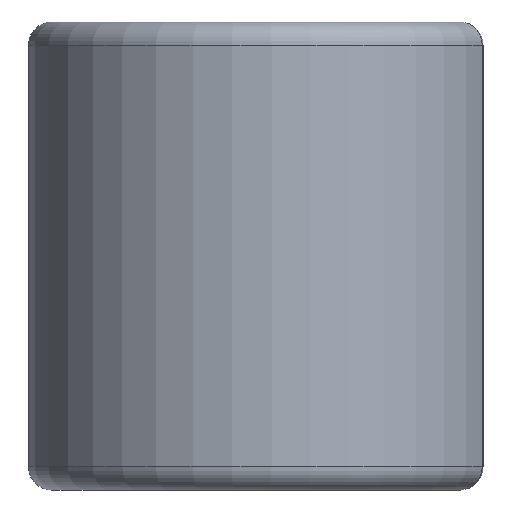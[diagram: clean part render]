
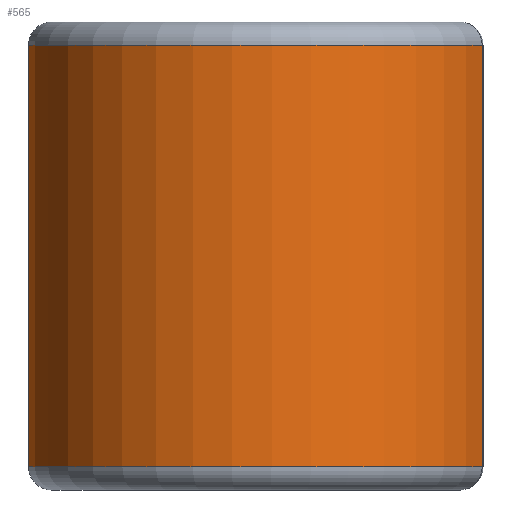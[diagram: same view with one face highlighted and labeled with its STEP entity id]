
A CAD part, left-side view. The second image highlights one B-rep face of the part: STEP entity #565.
In plain terms, the highlighted cylindrical face has radius 5 mm (diameter 10 mm), a partial arc.
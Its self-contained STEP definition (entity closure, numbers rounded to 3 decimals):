
#15 = VERTEX_POINT ( 'NONE', #93 ) ;
#30 = FACE_OUTER_BOUND ( 'NONE', #287, .T. ) ;
#38 = CARTESIAN_POINT ( 'NONE',  ( 0., 0., -4.5 ) ) ;
#61 = ORIENTED_EDGE ( 'NONE', *, *, #246, .T. ) ;
#67 = ORIENTED_EDGE ( 'NONE', *, *, #180, .T. ) ;
#93 = CARTESIAN_POINT ( 'NONE',  ( -1.667, -4.714, -4.5 ) ) ;
#100 = CYLINDRICAL_SURFACE ( 'NONE', #431, 5. ) ;
#104 = DIRECTION ( 'NONE',  ( 1., 0., 0. ) ) ;
#115 = CARTESIAN_POINT ( 'NONE',  ( -1.667, -4.714, 5. ) ) ;
#135 = VERTEX_POINT ( 'NONE', #676 ) ;
#153 = DIRECTION ( 'NONE',  ( -1., 0., 0. ) ) ;
#157 = CARTESIAN_POINT ( 'NONE',  ( -1.667, -4.714, 4.5 ) ) ;
#159 = EDGE_CURVE ( 'NONE', #181, #135, #616, .T. ) ;
#167 = DIRECTION ( 'NONE',  ( 0., 0., -1. ) ) ;
#180 = EDGE_CURVE ( 'NONE', #15, #267, #368, .T. ) ;
#181 = VERTEX_POINT ( 'NONE', #627 ) ;
#202 = CIRCLE ( 'NONE', #600, 5. ) ;
#246 = EDGE_CURVE ( 'NONE', #267, #181, #202, .T. ) ;
#267 = VERTEX_POINT ( 'NONE', #157 ) ;
#287 = EDGE_LOOP ( 'NONE', ( #425, #552, #67, #61 ) ) ;
#292 = CARTESIAN_POINT ( 'NONE',  ( 0., 0., 5. ) ) ;
#368 = LINE ( 'NONE', #115, #446 ) ;
#425 = ORIENTED_EDGE ( 'NONE', *, *, #159, .T. ) ;
#431 = AXIS2_PLACEMENT_3D ( 'NONE', #292, #607, #153 ) ;
#446 = VECTOR ( 'NONE', #529, 1000. ) ;
#496 = VECTOR ( 'NONE', #167, 1000. ) ;
#506 = CIRCLE ( 'NONE', #586, 5. ) ;
#529 = DIRECTION ( 'NONE',  ( 0., 0., 1. ) ) ;
#552 = ORIENTED_EDGE ( 'NONE', *, *, #579, .T. ) ;
#557 = DIRECTION ( 'NONE',  ( 0., 0., 1. ) ) ;
#565 = ADVANCED_FACE ( 'NONE', ( #30 ), #100, .T. ) ;
#571 = DIRECTION ( 'NONE',  ( 0., 0., -1. ) ) ;
#579 = EDGE_CURVE ( 'NONE', #135, #15, #506, .T. ) ;
#586 = AXIS2_PLACEMENT_3D ( 'NONE', #38, #557, #104 ) ;
#600 = AXIS2_PLACEMENT_3D ( 'NONE', #672, #571, #657 ) ;
#607 = DIRECTION ( 'NONE',  ( 0., 0., -1. ) ) ;
#616 = LINE ( 'NONE', #624, #496 ) ;
#624 = CARTESIAN_POINT ( 'NONE',  ( 1.667, -4.714, 5. ) ) ;
#627 = CARTESIAN_POINT ( 'NONE',  ( 1.667, -4.714, 4.5 ) ) ;
#657 = DIRECTION ( 'NONE',  ( 1., 0., 0. ) ) ;
#672 = CARTESIAN_POINT ( 'NONE',  ( 0., 0., 4.5 ) ) ;
#676 = CARTESIAN_POINT ( 'NONE',  ( 1.667, -4.714, -4.5 ) ) ;
